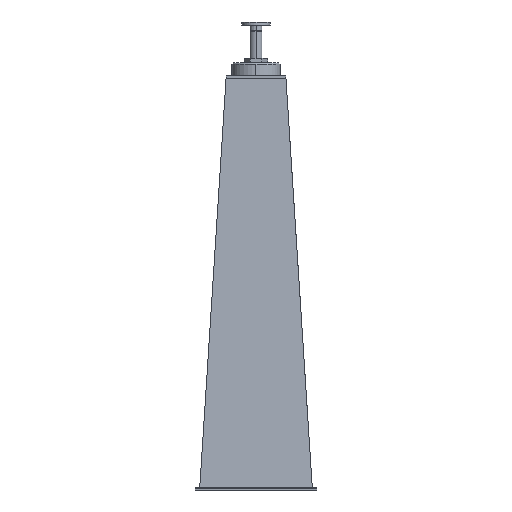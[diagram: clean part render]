
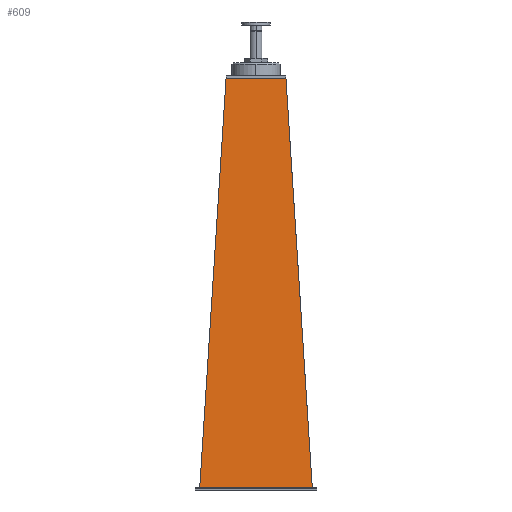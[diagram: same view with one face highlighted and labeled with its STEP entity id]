
A CAD part, left-side view. The second image highlights one B-rep face of the part: STEP entity #609.
In plain terms, the highlighted planar face has unit normal (-0.998, 0, 0.064).
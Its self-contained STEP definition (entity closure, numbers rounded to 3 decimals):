
#609=ADVANCED_FACE('',(#1260),#1261,.F.);
#1260=FACE_OUTER_BOUND('',#1995,.T.);
#1261=PLANE('',#1996);
#1995=EDGE_LOOP('',(#3861,#3862,#3863,#3864));
#1996=AXIS2_PLACEMENT_3D('',#3865,#3866,#3867);
#3861=ORIENTED_EDGE('',*,*,#4888,.T.);
#3862=ORIENTED_EDGE('',*,*,#4646,.F.);
#3863=ORIENTED_EDGE('',*,*,#4908,.F.);
#3864=ORIENTED_EDGE('',*,*,#4904,.T.);
#3865=CARTESIAN_POINT('',(54.323,123.959,935.193));
#3866=DIRECTION('',(0.998,0.,-0.064));
#3867=DIRECTION('',(0.,-1.0,0.));
#4646=EDGE_CURVE('',#5593,#5588,#5595,.T.);
#4888=EDGE_CURVE('',#5913,#5588,#5914,.T.);
#4904=EDGE_CURVE('',#5935,#5913,#5936,.T.);
#4908=EDGE_CURVE('',#5935,#5593,#5941,.T.);
#5588=VERTEX_POINT('',#7137);
#5593=VERTEX_POINT('',#7144);
#5595=LINE('',#7147,#7148);
#5913=VERTEX_POINT('',#7725);
#5914=LINE('',#7726,#7727);
#5935=VERTEX_POINT('',#7758);
#5936=LINE('',#7759,#7760);
#5941=LINE('',#7767,#7768);
#7137=CARTESIAN_POINT('',(-5.496,61.146,6.));
#7144=CARTESIAN_POINT('',(54.311,120.953,935.));
#7147=CARTESIAN_POINT('',(54.602,121.245,939.534));
#7148=VECTOR('',#8434,1.);
#7725=CARTESIAN_POINT('',(-5.496,316.773,6.));
#7726=CARTESIAN_POINT('',(-5.496,156.459,6.));
#7727=VECTOR('',#8606,1.0);
#7758=CARTESIAN_POINT('',(54.311,256.966,935.));
#7759=CARTESIAN_POINT('',(54.602,256.674,939.534));
#7760=VECTOR('',#8617,1.);
#7767=CARTESIAN_POINT('',(54.311,156.459,935.));
#7768=VECTOR('',#8620,1.0);
#8434=DIRECTION('',(-0.064,-0.064,-0.996));
#8606=DIRECTION('',(0.,-1.0,0.));
#8617=DIRECTION('',(-0.064,0.064,-0.996));
#8620=DIRECTION('',(0.,-1.0,0.));
